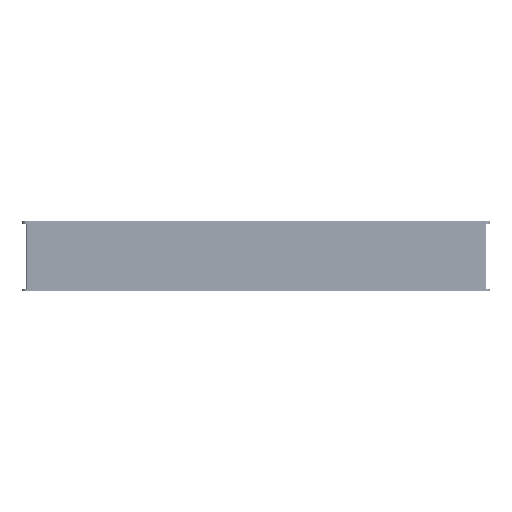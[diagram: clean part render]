
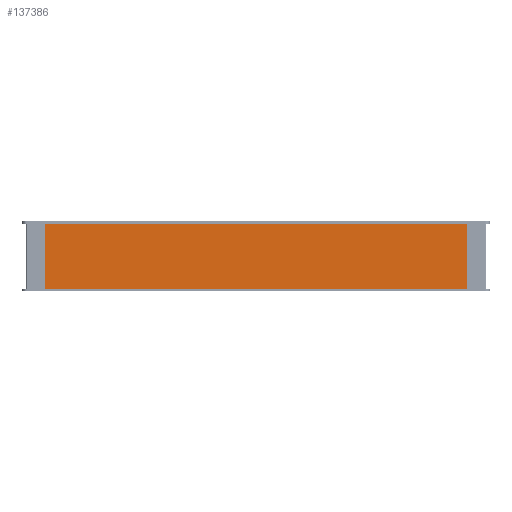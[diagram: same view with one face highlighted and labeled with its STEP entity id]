
A CAD part, left-side view. The second image highlights one B-rep face of the part: STEP entity #137386.
In plain terms, the highlighted planar face has unit normal (-1, 0, 0).
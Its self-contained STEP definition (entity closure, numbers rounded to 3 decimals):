
#2970 = EDGE_CURVE ( 'NONE', #52131, #137987, #67714, .T. ) ;
#4880 = LINE ( 'NONE', #19777, #103380 ) ;
#8844 = CARTESIAN_POINT ( 'NONE',  ( -875.983, -448.14, 7.955 ) ) ;
#13406 = EDGE_LOOP ( 'NONE', ( #24695, #91869, #133460, #40401 ) ) ;
#19777 = CARTESIAN_POINT ( 'NONE',  ( -875.983, 517.86, 7.955 ) ) ;
#23724 = PLANE ( 'NONE',  #38207 ) ;
#24695 = ORIENTED_EDGE ( 'NONE', *, *, #29010, .T. ) ;
#25760 = CARTESIAN_POINT ( 'NONE',  ( -875.983, -448.14, -131.045 ) ) ;
#29010 = EDGE_CURVE ( 'NONE', #85704, #52131, #4880, .T. ) ;
#33720 = CARTESIAN_POINT ( 'NONE',  ( -875.983, 517.86, 7.955 ) ) ;
#38207 = AXIS2_PLACEMENT_3D ( 'NONE', #63014, #165264, #137812 ) ;
#40401 = ORIENTED_EDGE ( 'NONE', *, *, #166079, .T. ) ;
#50572 = LINE ( 'NONE', #107518, #72662 ) ;
#52131 = VERTEX_POINT ( 'NONE', #85995 ) ;
#59097 = VECTOR ( 'NONE', #123914, 1000. ) ;
#59497 = CARTESIAN_POINT ( 'NONE',  ( -875.983, -448.14, -131.045 ) ) ;
#63014 = CARTESIAN_POINT ( 'NONE',  ( -875.983, 34.86, -61.545 ) ) ;
#63675 = VECTOR ( 'NONE', #90269, 1000. ) ;
#67714 = LINE ( 'NONE', #25760, #63675 ) ;
#68092 = EDGE_CURVE ( 'NONE', #137987, #69102, #85197, .T. ) ;
#69102 = VERTEX_POINT ( 'NONE', #110164 ) ;
#72662 = VECTOR ( 'NONE', #146399, 1000. ) ;
#85197 = LINE ( 'NONE', #8844, #59097 ) ;
#85704 = VERTEX_POINT ( 'NONE', #33720 ) ;
#85995 = CARTESIAN_POINT ( 'NONE',  ( -875.983, 517.86, -131.045 ) ) ;
#90269 = DIRECTION ( 'NONE',  ( 0., -1., 0. ) ) ;
#91869 = ORIENTED_EDGE ( 'NONE', *, *, #2970, .T. ) ;
#103380 = VECTOR ( 'NONE', #109614, 1000. ) ;
#107518 = CARTESIAN_POINT ( 'NONE',  ( -875.983, -448.14, 7.955 ) ) ;
#109614 = DIRECTION ( 'NONE',  ( 0., 0., -1. ) ) ;
#110164 = CARTESIAN_POINT ( 'NONE',  ( -875.983, -448.14, 7.955 ) ) ;
#123914 = DIRECTION ( 'NONE',  ( 0., 0., 1. ) ) ;
#129119 = FACE_OUTER_BOUND ( 'NONE', #13406, .T. ) ;
#133460 = ORIENTED_EDGE ( 'NONE', *, *, #68092, .T. ) ;
#137386 = ADVANCED_FACE ( 'NONE', ( #129119 ), #23724, .F. ) ;
#137812 = DIRECTION ( 'NONE',  ( 0., -1., 0. ) ) ;
#137987 = VERTEX_POINT ( 'NONE', #59497 ) ;
#146399 = DIRECTION ( 'NONE',  ( 0., 1., 0. ) ) ;
#165264 = DIRECTION ( 'NONE',  ( 1., 0., 0. ) ) ;
#166079 = EDGE_CURVE ( 'NONE', #69102, #85704, #50572, .T. ) ;
